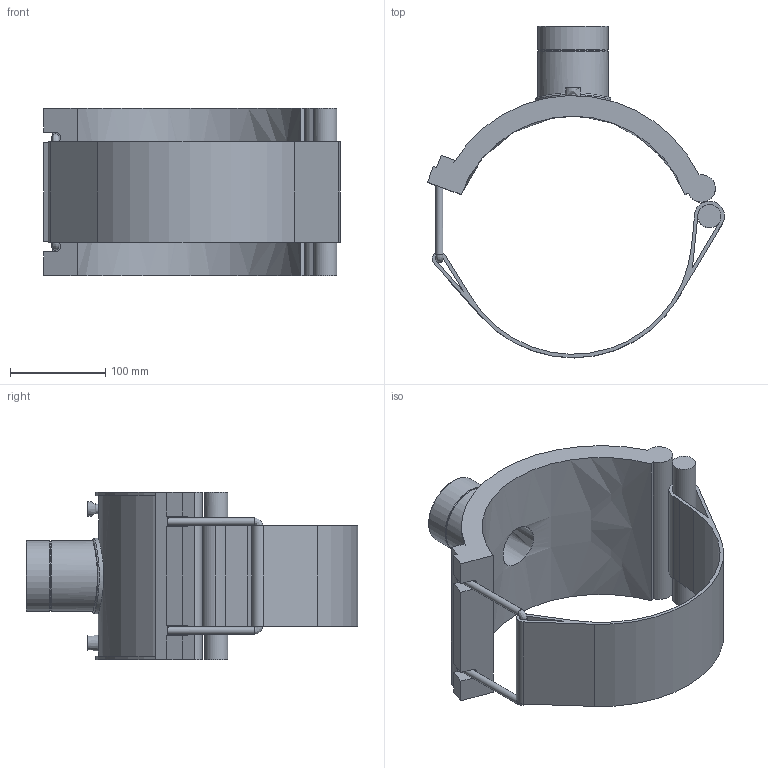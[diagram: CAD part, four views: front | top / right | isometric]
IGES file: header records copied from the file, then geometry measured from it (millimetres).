
Global section: file name: 493804250020.ipt; native system: Autodesk Inventor 2015; preprocessor: unknown; author: KIM; date: 20171106.094115; units: millimetre
Bounding box: 311.79 x 348.49 x 176 mm (x, y, z)
Volume: 1735196.8 mm3; surface area: 326343.6 mm2
Topology: 2 solids, 2 shells, 80 faces, 200 edges, 128 vertices
Faces by surface type: plane 44, cylinder 19, revolution 11, cone 5, bspline 1
Full cylindrical faces by diameter (mm): 4 x2, 7.5 x2, 24.231 x1, 72.653 x1, 73.653 x2, 79.318 x1
